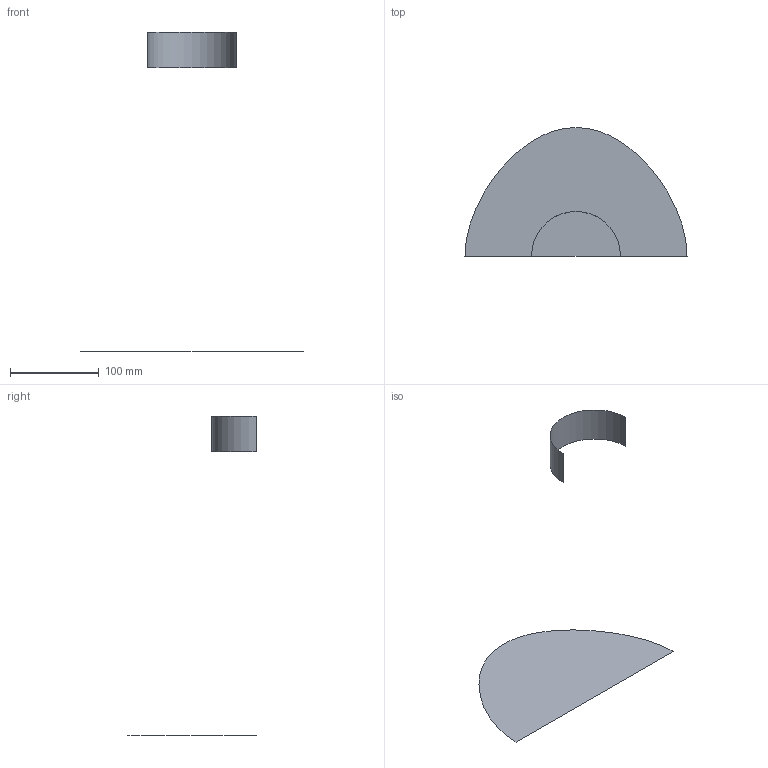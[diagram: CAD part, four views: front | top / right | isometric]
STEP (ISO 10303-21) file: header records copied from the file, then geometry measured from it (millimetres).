
FILE_DESCRIPTION(('CATIA V5 STEP Exchange'),'2;1');
FILE_NAME('C:\_Andres\UNIVERSIDAD\IQS\ASIGNATURAS\DAO\Controles\1617\c1\1original\Uria_Ciurana_Ej00-base_v35.stp','2017-02-06T16:27:58+00:00',('none'),('none'),'CATIA Version 5-6 Release 2014 SP1 HF18','CATIA V5 STEP AP203','none');
FILE_SCHEMA(('CONFIG_CONTROL_DESIGN'));
Length unit declared in the file: millimetre
Products named in the file (1): Uria_Ciurana_Ej00-base_v35
Bounding box: 250 x 145 x 360 mm (x, y, z)
Surface area: 33560.2 mm2 (no closed solid volume)
Topology: 0 solids, 2 shells, 2 faces, 16 edges, 26 vertices
Faces by surface type: cylinder 1, plane 1
Entity records: 230 total; most frequent: CARTESIAN_POINT 78, DIRECTION 16, COMPOSITE_CURVE_SEGMENT 9, TRIMMED_CURVE 9, AXIS2_PLACEMENT_3D 8, COMPOSITE_CURVE 7, ORIENTED_EDGE 7, EDGE_CURVE 7
